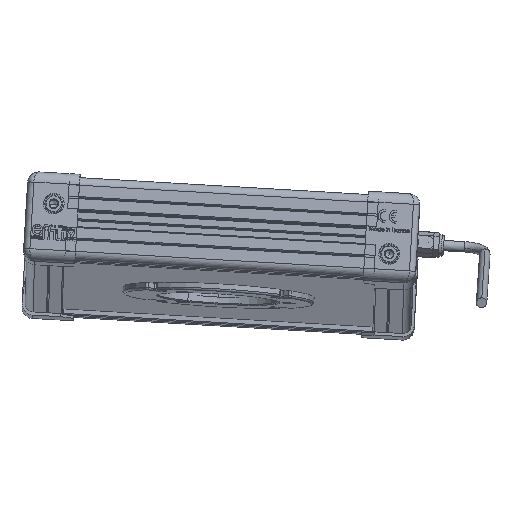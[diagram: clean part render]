
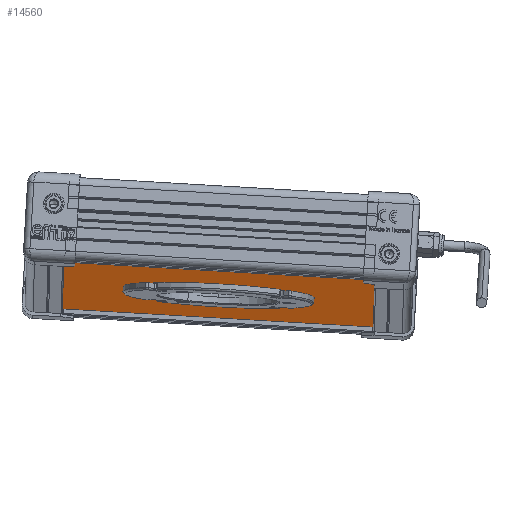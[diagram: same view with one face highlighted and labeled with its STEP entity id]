
A CAD part, front view. The second image highlights one B-rep face of the part: STEP entity #14560.
In plain terms, the highlighted planar face has unit normal (-0.058, -0.084, -0.995) as drawn and (0, 0, 1) by its records, which use the part's own axes.
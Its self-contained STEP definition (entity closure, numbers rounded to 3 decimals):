
#2679 = CARTESIAN_POINT ( 'NONE',  ( 189.05, 104.55, 0. ) ) ;
#2969 = CIRCLE ( 'NONE', #44516, 30.7 ) ;
#4256 = FACE_BOUND ( 'NONE', #6408, .T. ) ;
#4615 = DIRECTION ( 'NONE',  ( 1., 0., 0. ) ) ;
#4714 = AXIS2_PLACEMENT_3D ( 'NONE', #5327, #62633, #28043 ) ;
#5327 = CARTESIAN_POINT ( 'NONE',  ( 189.05, 104.55, 0. ) ) ;
#6408 = EDGE_LOOP ( 'NONE', ( #26159, #56066 ) ) ;
#6505 = LINE ( 'NONE', #29614, #70759 ) ;
#7482 = ORIENTED_EDGE ( 'NONE', *, *, #44533, .F. ) ;
#9127 = AXIS2_PLACEMENT_3D ( 'NONE', #54337, #71506, #20510 ) ;
#9388 = CARTESIAN_POINT ( 'NONE',  ( 190.7, 44.45, 0. ) ) ;
#9691 = AXIS2_PLACEMENT_3D ( 'NONE', #2679, #19792, #42473 ) ;
#9816 = DIRECTION ( 'NONE',  ( 0., 0., 1. ) ) ;
#10946 = AXIS2_PLACEMENT_3D ( 'NONE', #44216, #66966, #21552 ) ;
#11222 = EDGE_CURVE ( 'NONE', #50141, #58478, #34809, .T. ) ;
#12248 = ORIENTED_EDGE ( 'NONE', *, *, #15972, .F. ) ;
#12521 = VERTEX_POINT ( 'NONE', #59200 ) ;
#14560 = ADVANCED_FACE ( 'NONE', ( #21005, #59730, #43313, #4256, #26993, #42947 ), #71628, .T. ) ;
#15897 = CARTESIAN_POINT ( 'NONE',  ( 309., 149.5, 0. ) ) ;
#15972 = EDGE_CURVE ( 'NONE', #19407, #38270, #18679, .T. ) ;
#16204 = CARTESIAN_POINT ( 'NONE',  ( 9., 149.5, 0. ) ) ;
#17300 = DIRECTION ( 'NONE',  ( 0., 0., -1. ) ) ;
#18175 = EDGE_CURVE ( 'NONE', #58478, #51208, #71033, .T. ) ;
#18679 = CIRCLE ( 'NONE', #27062, 1.65 ) ;
#18783 = DIRECTION ( 'NONE',  ( 0., -1., 0. ) ) ;
#19344 = CARTESIAN_POINT ( 'NONE',  ( 130.6, 104.55, 0. ) ) ;
#19407 = VERTEX_POINT ( 'NONE', #45257 ) ;
#19641 = DIRECTION ( 'NONE',  ( 1., 0., 0. ) ) ;
#19792 = DIRECTION ( 'NONE',  ( 0., 0., 1. ) ) ;
#20395 = DIRECTION ( 'NONE',  ( 0., 1., 0. ) ) ;
#20510 = DIRECTION ( 'NONE',  ( 1., 0., 0. ) ) ;
#20572 = CARTESIAN_POINT ( 'NONE',  ( 9., -0.5, 0. ) ) ;
#20642 = DIRECTION ( 'NONE',  ( 0., 0., 1. ) ) ;
#20723 = EDGE_LOOP ( 'NONE', ( #66941, #67753 ) ) ;
#20938 = AXIS2_PLACEMENT_3D ( 'NONE', #43693, #59007, #70916 ) ;
#21005 = FACE_BOUND ( 'NONE', #20723, .T. ) ;
#21165 = EDGE_CURVE ( 'NONE', #25454, #63309, #71233, .T. ) ;
#21552 = DIRECTION ( 'NONE',  ( 1., 0., 0. ) ) ;
#22128 = ORIENTED_EDGE ( 'NONE', *, *, #33192, .T. ) ;
#24057 = EDGE_CURVE ( 'NONE', #63309, #25454, #64386, .T. ) ;
#24449 = VERTEX_POINT ( 'NONE', #19344 ) ;
#25454 = VERTEX_POINT ( 'NONE', #25977 ) ;
#25612 = DIRECTION ( 'NONE',  ( 0., 0., 1. ) ) ;
#25977 = CARTESIAN_POINT ( 'NONE',  ( 187.4, 104.55, 0. ) ) ;
#25992 = CARTESIAN_POINT ( 'NONE',  ( 128.3, 74.5, 0. ) ) ;
#26159 = ORIENTED_EDGE ( 'NONE', *, *, #24057, .F. ) ;
#26993 = FACE_BOUND ( 'NONE', #64480, .T. ) ;
#27062 = AXIS2_PLACEMENT_3D ( 'NONE', #43062, #25612, #19641 ) ;
#27631 = CIRCLE ( 'NONE', #52529, 1.65 ) ;
#28043 = DIRECTION ( 'NONE',  ( 1., 0., 0. ) ) ;
#28209 = VERTEX_POINT ( 'NONE', #64170 ) ;
#28249 = DIRECTION ( 'NONE',  ( 0., 0., 1. ) ) ;
#28487 = EDGE_CURVE ( 'NONE', #51208, #45648, #49149, .T. ) ;
#29614 = CARTESIAN_POINT ( 'NONE',  ( 9., 149.5, 0. ) ) ;
#30986 = VERTEX_POINT ( 'NONE', #64364 ) ;
#31407 = CARTESIAN_POINT ( 'NONE',  ( 9., 149.5, 0. ) ) ;
#32499 = VECTOR ( 'NONE', #54025, 1000. ) ;
#33111 = EDGE_CURVE ( 'NONE', #30986, #70414, #2969, .T. ) ;
#33192 = EDGE_CURVE ( 'NONE', #45648, #50141, #6505, .T. ) ;
#34619 = DIRECTION ( 'NONE',  ( 0., 0., -1. ) ) ;
#34809 = LINE ( 'NONE', #57496, #42230 ) ;
#35510 = EDGE_CURVE ( 'NONE', #28209, #38026, #70980, .T. ) ;
#35719 = ORIENTED_EDGE ( 'NONE', *, *, #36796, .T. ) ;
#36555 = EDGE_LOOP ( 'NONE', ( #7482, #36985 ) ) ;
#36796 = EDGE_CURVE ( 'NONE', #70414, #30986, #46047, .T. ) ;
#36985 = ORIENTED_EDGE ( 'NONE', *, *, #35510, .F. ) ;
#37759 = AXIS2_PLACEMENT_3D ( 'NONE', #51298, #34619, #47196 ) ;
#38026 = VERTEX_POINT ( 'NONE', #9388 ) ;
#38270 = VERTEX_POINT ( 'NONE', #66521 ) ;
#38536 = CARTESIAN_POINT ( 'NONE',  ( 159., 74.5, 0. ) ) ;
#39290 = ORIENTED_EDGE ( 'NONE', *, *, #18175, .T. ) ;
#39764 = ORIENTED_EDGE ( 'NONE', *, *, #11222, .T. ) ;
#42230 = VECTOR ( 'NONE', #69806, 1000. ) ;
#42473 = DIRECTION ( 'NONE',  ( 1., 0., 0. ) ) ;
#42947 = FACE_OUTER_BOUND ( 'NONE', #65016, .T. ) ;
#43061 = CARTESIAN_POINT ( 'NONE',  ( 309., -0.5, 0. ) ) ;
#43062 = CARTESIAN_POINT ( 'NONE',  ( 128.95, 44.45, 0. ) ) ;
#43313 = FACE_BOUND ( 'NONE', #36555, .T. ) ;
#43454 = ORIENTED_EDGE ( 'NONE', *, *, #46616, .F. ) ;
#43693 = CARTESIAN_POINT ( 'NONE',  ( 128.95, 104.55, 0. ) ) ;
#44216 = CARTESIAN_POINT ( 'NONE',  ( 128.95, 44.45, 0. ) ) ;
#44516 = AXIS2_PLACEMENT_3D ( 'NONE', #38536, #17300, #50737 ) ;
#44533 = EDGE_CURVE ( 'NONE', #38026, #28209, #27631, .T. ) ;
#45257 = CARTESIAN_POINT ( 'NONE',  ( 130.6, 44.45, 0. ) ) ;
#45648 = VERTEX_POINT ( 'NONE', #16204 ) ;
#46047 = CIRCLE ( 'NONE', #37759, 30.7 ) ;
#46616 = EDGE_CURVE ( 'NONE', #38270, #19407, #65656, .T. ) ;
#46749 = EDGE_CURVE ( 'NONE', #12521, #24449, #57329, .T. ) ;
#47196 = DIRECTION ( 'NONE',  ( -1., 0., 0. ) ) ;
#49149 = LINE ( 'NONE', #31407, #32499 ) ;
#49424 = ORIENTED_EDGE ( 'NONE', *, *, #33111, .T. ) ;
#50141 = VERTEX_POINT ( 'NONE', #20572 ) ;
#50235 = ORIENTED_EDGE ( 'NONE', *, *, #28487, .T. ) ;
#50737 = DIRECTION ( 'NONE',  ( -1., 0., 0. ) ) ;
#50856 = DIRECTION ( 'NONE',  ( 1., 0., 0. ) ) ;
#51208 = VERTEX_POINT ( 'NONE', #55871 ) ;
#51298 = CARTESIAN_POINT ( 'NONE',  ( 159., 74.5, 0. ) ) ;
#51329 = AXIS2_PLACEMENT_3D ( 'NONE', #57973, #28249, #50856 ) ;
#52529 = AXIS2_PLACEMENT_3D ( 'NONE', #61187, #9816, #4615 ) ;
#53151 = CIRCLE ( 'NONE', #20938, 1.65 ) ;
#54025 = DIRECTION ( 'NONE',  ( -1., 0., 0. ) ) ;
#54337 = CARTESIAN_POINT ( 'NONE',  ( 189.05, 44.45, 0. ) ) ;
#55569 = CARTESIAN_POINT ( 'NONE',  ( 0., 0., 0. ) ) ;
#55871 = CARTESIAN_POINT ( 'NONE',  ( 309., 149.5, 0. ) ) ;
#56066 = ORIENTED_EDGE ( 'NONE', *, *, #21165, .F. ) ;
#57113 = CARTESIAN_POINT ( 'NONE',  ( 190.7, 104.55, 0. ) ) ;
#57329 = CIRCLE ( 'NONE', #51329, 1.65 ) ;
#57496 = CARTESIAN_POINT ( 'NONE',  ( 9., -0.5, 0. ) ) ;
#57973 = CARTESIAN_POINT ( 'NONE',  ( 128.95, 104.55, 0. ) ) ;
#58478 = VERTEX_POINT ( 'NONE', #43061 ) ;
#59007 = DIRECTION ( 'NONE',  ( 0., 0., 1. ) ) ;
#59200 = CARTESIAN_POINT ( 'NONE',  ( 127.3, 104.55, 0. ) ) ;
#59730 = FACE_BOUND ( 'NONE', #65289, .T. ) ;
#61187 = CARTESIAN_POINT ( 'NONE',  ( 189.05, 44.45, 0. ) ) ;
#62633 = DIRECTION ( 'NONE',  ( 0., 0., 1. ) ) ;
#63309 = VERTEX_POINT ( 'NONE', #57113 ) ;
#64170 = CARTESIAN_POINT ( 'NONE',  ( 187.4, 44.45, 0. ) ) ;
#64364 = CARTESIAN_POINT ( 'NONE',  ( 189.7, 74.5, 0. ) ) ;
#64386 = CIRCLE ( 'NONE', #9691, 1.65 ) ;
#64480 = EDGE_LOOP ( 'NONE', ( #35719, #49424 ) ) ;
#65016 = EDGE_LOOP ( 'NONE', ( #22128, #39764, #39290, #50235 ) ) ;
#65289 = EDGE_LOOP ( 'NONE', ( #12248, #43454 ) ) ;
#65656 = CIRCLE ( 'NONE', #10946, 1.65 ) ;
#66056 = DIRECTION ( 'NONE',  ( 1., 0., 0. ) ) ;
#66521 = CARTESIAN_POINT ( 'NONE',  ( 127.3, 44.45, 0. ) ) ;
#66624 = AXIS2_PLACEMENT_3D ( 'NONE', #55569, #20642, #66056 ) ;
#66941 = ORIENTED_EDGE ( 'NONE', *, *, #70693, .F. ) ;
#66966 = DIRECTION ( 'NONE',  ( 0., 0., 1. ) ) ;
#67753 = ORIENTED_EDGE ( 'NONE', *, *, #46749, .F. ) ;
#69806 = DIRECTION ( 'NONE',  ( 1., 0., 0. ) ) ;
#70414 = VERTEX_POINT ( 'NONE', #25992 ) ;
#70693 = EDGE_CURVE ( 'NONE', #24449, #12521, #53151, .T. ) ;
#70759 = VECTOR ( 'NONE', #18783, 1000. ) ;
#70916 = DIRECTION ( 'NONE',  ( 1., 0., 0. ) ) ;
#70980 = CIRCLE ( 'NONE', #9127, 1.65 ) ;
#71033 = LINE ( 'NONE', #15897, #73356 ) ;
#71233 = CIRCLE ( 'NONE', #4714, 1.65 ) ;
#71506 = DIRECTION ( 'NONE',  ( 0., 0., 1. ) ) ;
#71628 = PLANE ( 'NONE',  #66624 ) ;
#73356 = VECTOR ( 'NONE', #20395, 1000. ) ;
